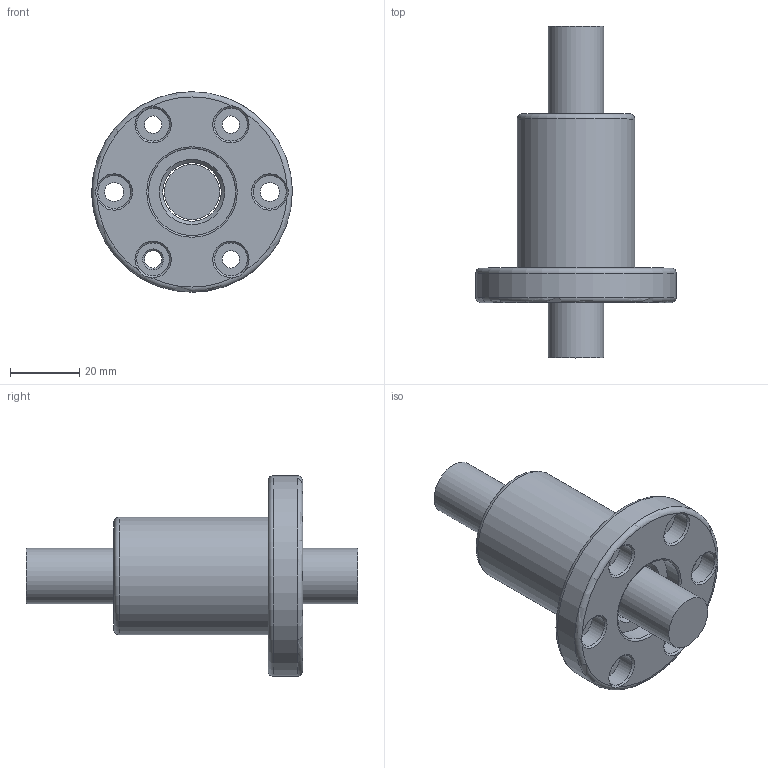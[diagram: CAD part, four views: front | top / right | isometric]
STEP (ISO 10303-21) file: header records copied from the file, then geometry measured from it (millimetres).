
FILE_DESCRIPTION(/* description */ (''),/* implementation_level */ '2;1');
FILE_NAME(/* name */ '1610T4N.prt.step',/* time_stamp */ '2008-12-05T09:33:16+08:00',/* author */ (''),/* organization */ (''),/* preprocessor_version */ 'ST-DEVELOPER v11',/* originating_system */ 'SIEMENS UGS NX 6.0',/* authorisation */ '');
FILE_SCHEMA (('AUTOMOTIVE_DESIGN { 1 0 10303 214 1 1 1 1 }'));
Length unit declared in the file: millimetre
Products named in the file (1): 1610T4N
Bounding box: 58 x 96 x 58 mm (x, y, z)
Volume: 67726.5 mm3; surface area: 20498.4 mm2
Topology: 2 solids, 2 shells, 56 faces, 127 edges, 78 vertices
Faces by surface type: cylinder 18, cone 14, plane 13, bspline 6, torus 5
Full cylindrical faces by diameter (mm): 5 x4, 5.5 x2, 9.5 x6, 15.95 x1, 16.9 x1, 25.2 x2, 34 x1, 58 x1
Entity records: 1402 total; most frequent: CARTESIAN_POINT 309, DIRECTION 222, ORIENTED_EDGE 168, AXIS2_PLACEMENT_3D 111, EDGE_LOOP 104, FACE_BOUND 90, EDGE_CURVE 84, VERTEX_POINT 66
